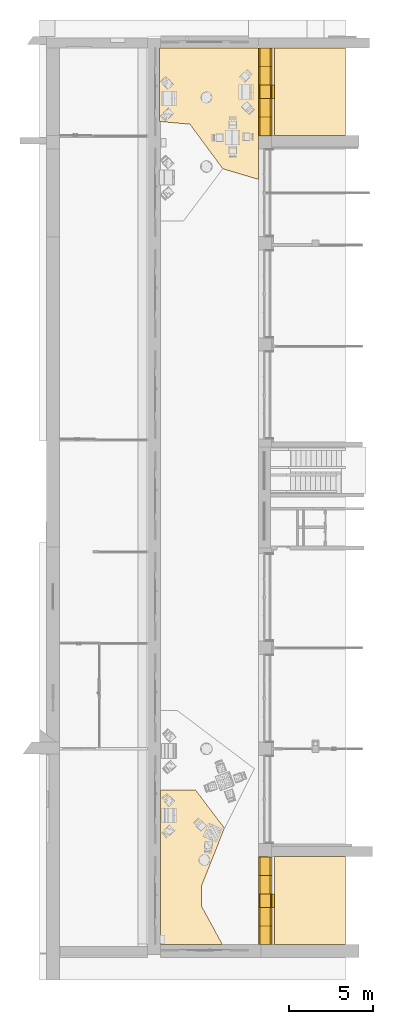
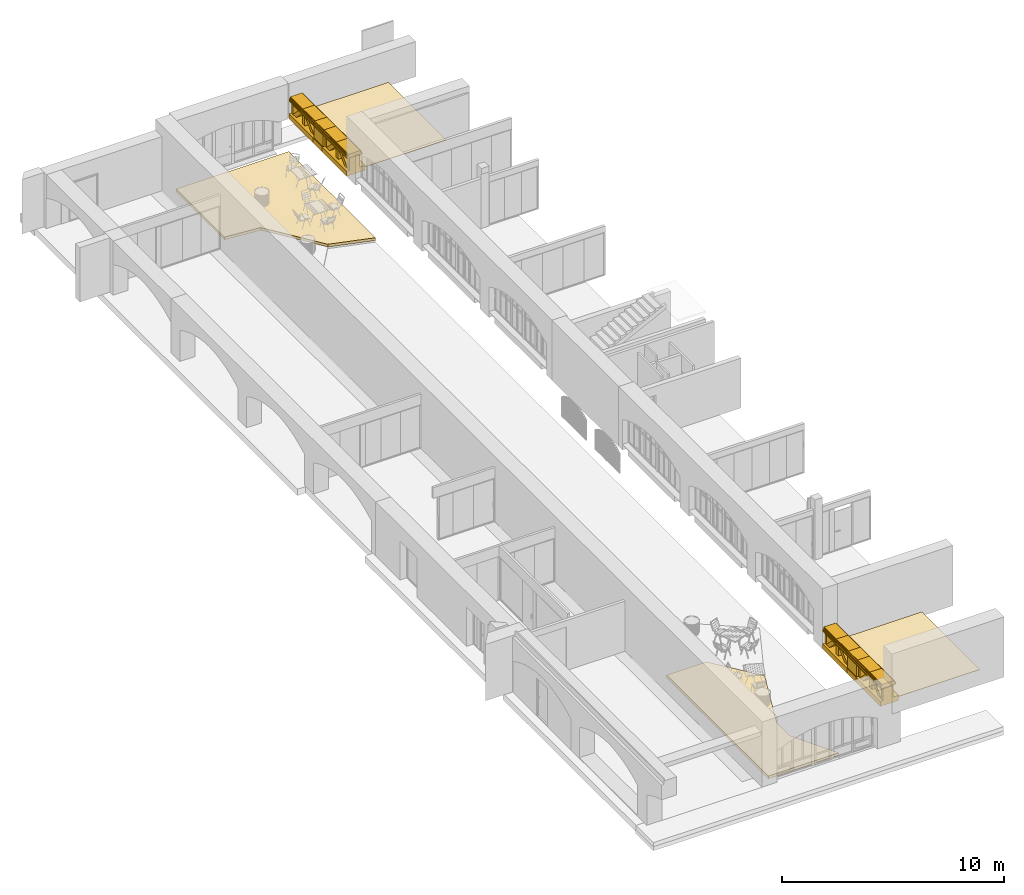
# One storey, part 86 of 88: 14 railings, 4 coverings.
"""IFC2X3 building model written with IfcOpenShell, lengths in millimetres."""

import ifcopenshell
import ifcopenshell.guid

model = None  # the IFC model being written
_history = None  # IfcOwnerHistory: only IFC2X3 demands one
_inside = {}  # id of a spatial element -> (the spatial element, [elements in it])
_under = {}  # id of a project, library or spatial element -> (it, [spatial elements below it])
_declared = {}  # id of a project -> (the project, [libraries it declares])
_typed = {}  # id of a type object -> (the type object, [elements of that type])
_made_of = {}  # id of a material, layer set ... -> (it, [elements and type objects made of it])


def new_model(schema):
    """Start an empty IFC model of exactly this schema.

    Asked for "IFC4X3", IfcOpenShell would pick the latest addendum, in which some entities
    have other attributes; the version numbers below select the first issue.
    IFC2X3 requires an IfcOwnerHistory on every rooted entity: one is made here for all.
    """
    global model, _history
    if schema == "IFC4X3":
        model = ifcopenshell.file(schema_version=(4, 3, 0, 0))
    else:
        model = ifcopenshell.file(schema=schema)
    _inside.clear()
    _under.clear()
    _declared.clear()
    _typed.clear()
    _made_of.clear()
    _history = None
    if model.schema == "IFC2X3":
        org = make("IfcOrganization", Name="unknown")
        user = make(
            "IfcPersonAndOrganization",
            ThePerson=make("IfcPerson", FamilyName="unknown"),
            TheOrganization=org,
        )
        app = make(
            "IfcApplication",
            ApplicationDeveloper=org,
            Version="unknown",
            ApplicationFullName="unknown",
            ApplicationIdentifier="unknown",
        )
        _history = make(
            "IfcOwnerHistory",
            OwningUser=user,
            OwningApplication=app,
            ChangeAction="ADDED",
            CreationDate=0,
        )
    return model


def make(cls, **values):
    """One entity of the class cls with the attributes given. An attribute that is None is left unset."""
    return model.create_entity(
        cls, **{name: value for name, value in values.items() if value is not None}
    )


def entity(cls, *values):
    """Any entity or typed value of the class cls, its attributes in the order of the schema. None: left unset."""
    e = model.create_entity(cls)
    for i, value in enumerate(values):
        if value is not None:
            e[i] = value
    return e


def rooted(cls, **values):
    """An entity with a GlobalId (a new one), such as an element, a storey or a relation."""
    return make(cls, GlobalId=ifcopenshell.guid.new(), OwnerHistory=_history, **values)


def si_unit(unit_type, name, prefix=None):
    """IfcSIUnit, for example si_unit("LENGTHUNIT", "METRE", prefix="MILLI")."""
    return make("IfcSIUnit", UnitType=unit_type, Prefix=prefix, Name=name)


def converted_unit(unit_type, name, factor, base, dimensions=None, offset=None):
    """IfcConversionBasedUnit, such as the inch: factor (a typed value) times the base unit."""
    return make(
        "IfcConversionBasedUnit"
        if offset is None
        else "IfcConversionBasedUnitWithOffset",
        ConversionOffset=offset,
        Dimensions=None
        if dimensions is None
        else entity("IfcDimensionalExponents", *dimensions),
        UnitType=unit_type,
        Name=name,
        ConversionFactor=make(
            "IfcMeasureWithUnit", ValueComponent=factor, UnitComponent=base
        ),
    )


def derived_unit(unit_type, elements):
    """IfcDerivedUnit: a product of units, each with its exponent."""
    return make(
        "IfcDerivedUnit",
        Elements=[
            make("IfcDerivedUnitElement", Unit=unit, Exponent=power)
            for unit, power in elements
        ],
        UnitType=unit_type,
    )


def assignment(units):
    """IfcUnitAssignment: the units of a project."""
    return None if units is None else make("IfcUnitAssignment", Units=units)


def point(xyz):
    """IfcCartesianPoint."""
    return None if xyz is None else make("IfcCartesianPoint", Coordinates=xyz)


def direction(xyz):
    """IfcDirection."""
    return None if xyz is None else make("IfcDirection", DirectionRatios=xyz)


def frame(location, z_axis=None, x_axis=None):
    """IfcAxis2Placement3D, a coordinate frame: its origin and axes. An axis left out is left unset."""
    return make(
        "IfcAxis2Placement3D",
        Location=point(location),
        Axis=direction(z_axis),
        RefDirection=direction(x_axis),
    )


def frame_2d(location, x_axis=None):
    """IfcAxis2Placement2D, a coordinate frame in the plane: its origin and x axis."""
    return make(
        "IfcAxis2Placement2D", Location=point(location), RefDirection=direction(x_axis)
    )


def origin():
    """The frame at (0, 0, 0) with its axes left unset."""
    return frame((0.0, 0.0, 0.0))


def place(relative_to, where):
    """IfcLocalPlacement: puts the frame where relative to a parent placement (None: the world)."""
    return make(
        "IfcLocalPlacement", PlacementRelTo=relative_to, RelativePlacement=where
    )


def context(
    kind, dimensions, precision=None, world=None, true_north=None, identifier=None
):
    """IfcGeometricRepresentationContext, for example the 3D "Model" context."""
    return make(
        "IfcGeometricRepresentationContext",
        ContextIdentifier=identifier,
        ContextType=kind,
        CoordinateSpaceDimension=dimensions,
        Precision=precision,
        WorldCoordinateSystem=world,
        TrueNorth=true_north,
    )


def subcontext(parent, identifier, kind, view, scale=None):
    """IfcGeometricRepresentationSubContext, for example "Body" below "Model"."""
    return make(
        "IfcGeometricRepresentationSubContext",
        ContextIdentifier=identifier,
        ContextType=kind,
        ParentContext=parent,
        TargetScale=scale,
        TargetView=view,
    )


def project(units=None, contexts=None):
    """IfcProject with its units and contexts."""
    return rooted(
        "IfcProject",
        Name="project",
        RepresentationContexts=contexts,
        UnitsInContext=assignment(units),
    )


def spatial(cls, under=None, at=None, **own):
    """A site, building, storey or space (cls), placed at a placement, below another one or the project."""
    s = rooted(cls, ObjectPlacement=at, **own)
    if under is not None:
        _under.setdefault(under.id(), (under, []))[1].append(s)
    return s


def polyline(points):
    """IfcPolyline through the points."""
    return make("IfcPolyline", Points=[point(p) for p in points])


def profile(cls, at=None, kind="AREA", **sizes):
    """A parametric profile (cls). Its sizes go by their IFC names, for example OverallWidth=200.0."""
    return make(cls, ProfileType=kind, Position=at, **sizes)


def rectangle(**sizes):
    """IfcRectangleProfileDef."""
    return profile("IfcRectangleProfileDef", **sizes)


def outline(outer, holes=None, kind="AREA"):
    """IfcArbitraryClosedProfileDef: a profile drawn as a closed curve; with holes, ...WithVoids."""
    if holes is None:
        return make("IfcArbitraryClosedProfileDef", ProfileType=kind, OuterCurve=outer)
    return make(
        "IfcArbitraryProfileDefWithVoids",
        ProfileType=kind,
        OuterCurve=outer,
        InnerCurves=holes,
    )


def extrude(swept, where, along, depth):
    """IfcExtrudedAreaSolid: the profile swept, set in the frame where, extruded along a direction by depth."""
    return make(
        "IfcExtrudedAreaSolid",
        SweptArea=swept,
        Position=where,
        ExtrudedDirection=direction(along),
        Depth=depth,
    )


def faces_of(points, faces, orient=None, outer=None):
    """IfcFace entities. A face is a list of loops; a loop is a list of indices into points, from 0.

    orient and outer hold one flag for each loop. By default every Orientation is true, the
    first loop of a face is its IfcFaceOuterBound and the others are IfcFaceBound.
    """
    made = []
    for i, loops in enumerate(faces):
        bounds = []
        for j, loop in enumerate(loops):
            is_outer = j == 0 if outer is None else outer[i][j]
            bounds.append(
                make(
                    "IfcFaceOuterBound" if is_outer else "IfcFaceBound",
                    Bound=make("IfcPolyLoop", Polygon=[points[k] for k in loop]),
                    Orientation=True if orient is None else orient[i][j],
                )
            )
        made.append(make("IfcFace", Bounds=bounds))
    return made


def faceted_brep(points, faces, orient=None, outer=None, voids=None):
    """IfcFacetedBrep: a solid bounded by flat faces; with voids (closed shells), ...WithVoids."""
    shared = [point(p) for p in points]
    hull = make("IfcClosedShell", CfsFaces=faces_of(shared, faces, orient, outer))
    if voids is None:
        return make("IfcFacetedBrep", Outer=hull)
    return make(
        "IfcFacetedBrepWithVoids",
        Outer=hull,
        Voids=[
            make(cls, CfsFaces=faces_of(shared, fs, o, b)) for cls, fs, o, b in voids
        ],
    )


def shape(context_of_items, identifier, shape_type, items):
    """IfcShapeRepresentation: the items that make up one representation, for example the "Body"."""
    return make(
        "IfcShapeRepresentation",
        ContextOfItems=context_of_items,
        RepresentationIdentifier=identifier,
        RepresentationType=shape_type,
        Items=items,
    )


def source(mapping_origin, context_of_items, identifier, shape_type, items):
    """IfcRepresentationMap: a shape defined once, which mapped items show again and again."""
    return make(
        "IfcRepresentationMap",
        MappingOrigin=mapping_origin,
        MappedRepresentation=shape(context_of_items, identifier, shape_type, items),
    )


def transform(
    local_origin,
    x_axis=None,
    y_axis=None,
    z_axis=None,
    scale=None,
    scale2=None,
    scale3=None,
    uniform=True,
):
    """IfcCartesianTransformationOperator3D, or its non-uniform kind. x_axis, y_axis, z_axis: its Axis1, 2, 3."""
    if uniform:
        return make(
            "IfcCartesianTransformationOperator3D",
            Axis1=direction(x_axis),
            Axis2=direction(y_axis),
            LocalOrigin=point(local_origin),
            Scale=scale,
            Axis3=direction(z_axis),
        )
    return make(
        "IfcCartesianTransformationOperator3DnonUniform",
        Axis1=direction(x_axis),
        Axis2=direction(y_axis),
        LocalOrigin=point(local_origin),
        Scale=scale,
        Axis3=direction(z_axis),
        Scale2=scale2,
        Scale3=scale3,
    )


def mapped(mapping_source, mapping_target):
    """IfcMappedItem: shows the shape of a source again, moved by a transform."""
    return make(
        "IfcMappedItem", MappingSource=mapping_source, MappingTarget=mapping_target
    )


def material(Name=None, Category=None):
    """IfcMaterial."""
    return make("IfcMaterial", Name=Name, Category=Category)


def layer(
    of_material, thickness, ventilated=None, Name=None, Category=None, Priority=None
):
    """IfcMaterialLayer: one layer of a wall or slab, of a material (None: an air gap)."""
    return make(
        "IfcMaterialLayer",
        Material=of_material,
        LayerThickness=thickness,
        IsVentilated=ventilated,
        Name=Name,
        Category=Category,
        Priority=Priority,
    )


def layer_set(layers, Name=None):
    """IfcMaterialLayerSet."""
    return make("IfcMaterialLayerSet", MaterialLayers=layers, LayerSetName=Name)


def layer_usage(for_layer_set, set_direction, sense, offset, extent=None):
    """IfcMaterialLayerSetUsage: how a layer set lies in its element."""
    return make(
        "IfcMaterialLayerSetUsage",
        ForLayerSet=for_layer_set,
        LayerSetDirection=set_direction,
        DirectionSense=sense,
        OffsetFromReferenceLine=offset,
        ReferenceExtent=extent,
    )


def made_of(thing, what):
    """Note that an element or type object is made of a material, layer set ...; save() writes the relation."""
    if what is not None:
        _made_of.setdefault(what.id(), (what, []))[1].append(thing)
    return thing


def type_object(cls, material=None, **own):
    """A type object (cls), such as IfcWallType, which elements share."""
    return made_of(rooted(cls, **own), material)


def type_shapes(of_type, sources):
    """Give a type object the sources (RepresentationMaps) that its elements show as mapped items."""
    of_type.RepresentationMaps = sources


def element(
    cls,
    number,
    at=None,
    inside=None,
    cuts=None,
    type_object=None,
    material=None,
    context=None,
    identifier="Body",
    shape_type=None,
    held_by="IfcProductDefinitionShape",
    body=None,
    shapes=None,
    **own,
):
    """One element of the class cls, such as IfcWall. Its Tag is "e" and its number.

    at: its placement. inside: the storey or other place that contains it. cuts: it is an
    opening in that element (IfcRelVoidsElement). A single representation is given by context,
    identifier, shape_type and body (its items); several are given by shapes. held_by: the class
    of the entity that holds the representations. save() writes the other relations.
    """
    e = rooted(cls, Tag="e%d" % number, ObjectPlacement=at, **own)
    if body is not None:
        shapes = [shape(context, identifier, shape_type, body)]
    if shapes is not None:
        e.Representation = make(held_by, Representations=shapes)
    if inside is not None:
        _inside.setdefault(inside.id(), (inside, []))[1].append(e)
    if cuts is not None:
        rooted(
            "IfcRelVoidsElement", RelatingBuildingElement=cuts, RelatedOpeningElement=e
        )
    if type_object is not None:
        _typed.setdefault(type_object.id(), (type_object, []))[1].append(e)
    return made_of(e, material)


def aggregate(whole, parts):
    """IfcRelAggregates: a whole, such as a stair, and the parts it consists of."""
    return rooted("IfcRelAggregates", RelatingObject=whole, RelatedObjects=parts)


def save(model, path):
    """Write the relations noted so far, then the file.

    IfcRelAggregates (storeys below a building ...), IfcRelContainedInSpatialStructure (elements
    in a storey), IfcRelDefinesByType, IfcRelAssociatesMaterial and IfcRelDeclares: one each for
    every whole, place, type object, material and project.
    """
    for whole, parts in _under.values():
        aggregate(whole, parts)
    for where, things in _inside.values():
        rooted(
            "IfcRelContainedInSpatialStructure",
            RelatedElements=things,
            RelatingStructure=where,
        )
    for kind, things in _typed.values():
        rooted("IfcRelDefinesByType", RelatedObjects=things, RelatingType=kind)
    for what, things in _made_of.values():
        rooted("IfcRelAssociatesMaterial", RelatedObjects=things, RelatingMaterial=what)
    for by, libraries in _declared.values():
        rooted("IfcRelDeclares", RelatingContext=by, RelatedDefinitions=libraries)
    model.write(path)


model = new_model("IFC2X3")

# Units and contexts
model_context = context("Model", 3, precision=0.01, world=origin(), true_north=direction((6.123031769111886e-17, 1.0)))
body_context = subcontext(model_context, "Body", "Model", "MODEL_VIEW")
ifc_project = project(units=[si_unit("LENGTHUNIT", "METRE", prefix="MILLI"), si_unit("AREAUNIT", "SQUARE_METRE"), si_unit("VOLUMEUNIT", "CUBIC_METRE"), converted_unit("PLANEANGLEUNIT", "DEGREE", entity("IfcPlaneAngleMeasure", 0.017453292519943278), si_unit("PLANEANGLEUNIT", "RADIAN"), dimensions=[0, 0, 0, 0, 0, 0, 0]), si_unit("MASSUNIT", "GRAM", prefix="KILO"), derived_unit("MASSDENSITYUNIT", [(si_unit("MASSUNIT", "GRAM", prefix="KILO"), 1), (si_unit("LENGTHUNIT", "METRE"), -3)]), derived_unit("IONCONCENTRATIONUNIT", [(si_unit("MASSUNIT", "GRAM", prefix="KILO"), 1), (si_unit("LENGTHUNIT", "METRE"), -3)]), derived_unit("MOMENTOFINERTIAUNIT", [(si_unit("LENGTHUNIT", "METRE"), 4)]), si_unit("TIMEUNIT", "SECOND"), si_unit("FREQUENCYUNIT", "HERTZ"), si_unit("THERMODYNAMICTEMPERATUREUNIT", "DEGREE_CELSIUS"), derived_unit("THERMALTRANSMITTANCEUNIT", [(si_unit("MASSUNIT", "GRAM", prefix="KILO"), 1), (si_unit("THERMODYNAMICTEMPERATUREUNIT", "KELVIN"), -1), (si_unit("TIMEUNIT", "SECOND"), -3)]), derived_unit("THERMALCONDUCTANCEUNIT", [(si_unit("MASSUNIT", "GRAM", prefix="KILO"), 1), (si_unit("THERMODYNAMICTEMPERATUREUNIT", "KELVIN"), -1), (si_unit("TIMEUNIT", "SECOND"), -3), (si_unit("LENGTHUNIT", "METRE"), 1)]), derived_unit("VOLUMETRICFLOWRATEUNIT", [(si_unit("LENGTHUNIT", "METRE", prefix="DECI"), 3), (si_unit("TIMEUNIT", "SECOND"), -1)]), derived_unit("MASSFLOWRATEUNIT", [(si_unit("MASSUNIT", "GRAM", prefix="KILO"), 1), (si_unit("TIMEUNIT", "SECOND"), -1)]), derived_unit("ROTATIONALFREQUENCYUNIT", [(si_unit("TIMEUNIT", "SECOND"), -1)]), si_unit("ELECTRICCURRENTUNIT", "AMPERE"), si_unit("ELECTRICVOLTAGEUNIT", "VOLT"), si_unit("POWERUNIT", "WATT"), si_unit("FORCEUNIT", "NEWTON", prefix="KILO"), si_unit("ILLUMINANCEUNIT", "LUX"), si_unit("LUMINOUSFLUXUNIT", "LUMEN"), si_unit("LUMINOUSINTENSITYUNIT", "CANDELA"), si_unit("ENERGYUNIT", "JOULE"), derived_unit("USERDEFINED", [(si_unit("MASSUNIT", "GRAM", prefix="KILO"), -1), (si_unit("LENGTHUNIT", "METRE"), -2), (si_unit("TIMEUNIT", "SECOND"), 3), (si_unit("LUMINOUSFLUXUNIT", "LUMEN"), 1)]), derived_unit("USERDEFINED", [(si_unit("MASSUNIT", "GRAM", prefix="KILO"), 1), (si_unit("TIMEUNIT", "SECOND"), -3), (si_unit("LENGTHUNIT", "METRE"), 3), (si_unit("ELECTRICCURRENTUNIT", "AMPERE"), -2)]), derived_unit("SOUNDPOWERUNIT", [(si_unit("MASSUNIT", "GRAM", prefix="KILO"), 1), (si_unit("TIMEUNIT", "SECOND"), -3), (si_unit("LENGTHUNIT", "METRE"), 2)]), derived_unit("SOUNDPRESSUREUNIT", [(si_unit("MASSUNIT", "GRAM", prefix="KILO"), 1), (si_unit("LENGTHUNIT", "METRE"), -1), (si_unit("TIMEUNIT", "SECOND"), -2)]), derived_unit("LINEARVELOCITYUNIT", [(si_unit("LENGTHUNIT", "METRE"), 1), (si_unit("TIMEUNIT", "SECOND"), -1)]), si_unit("PRESSUREUNIT", "PASCAL"), derived_unit("USERDEFINED", [(si_unit("MASSUNIT", "GRAM", prefix="KILO"), 1), (si_unit("LENGTHUNIT", "METRE"), -2), (si_unit("TIMEUNIT", "SECOND"), -2)]), derived_unit("LINEARFORCEUNIT", [(si_unit("MASSUNIT", "GRAM", prefix="KILO"), 1), (si_unit("TIMEUNIT", "SECOND"), -2)]), derived_unit("PLANARFORCEUNIT", [(si_unit("MASSUNIT", "GRAM", prefix="KILO"), 1), (si_unit("LENGTHUNIT", "METRE"), -1), (si_unit("TIMEUNIT", "SECOND"), -2)]), derived_unit("SPECIFICHEATCAPACITYUNIT", [(si_unit("THERMODYNAMICTEMPERATUREUNIT", "KELVIN"), -1), (si_unit("LENGTHUNIT", "METRE"), 2), (si_unit("TIMEUNIT", "SECOND"), -2)]), derived_unit("HEATFLUXDENSITYUNIT", [(si_unit("MASSUNIT", "GRAM", prefix="KILO"), 1), (si_unit("TIMEUNIT", "SECOND"), -3)]), derived_unit("HEATINGVALUEUNIT", [(si_unit("LENGTHUNIT", "METRE"), 2), (si_unit("TIMEUNIT", "SECOND"), -2)]), derived_unit("VAPORPERMEABILITYUNIT", [(si_unit("LENGTHUNIT", "METRE"), -1), (si_unit("TIMEUNIT", "SECOND"), 1)]), derived_unit("DYNAMICVISCOSITYUNIT", [(si_unit("MASSUNIT", "GRAM", prefix="KILO"), 1), (si_unit("TIMEUNIT", "SECOND"), -1), (si_unit("LENGTHUNIT", "METRE"), -1)]), derived_unit("THERMALEXPANSIONCOEFFICIENTUNIT", [(si_unit("THERMODYNAMICTEMPERATUREUNIT", "KELVIN"), -1)]), derived_unit("MODULUSOFELASTICITYUNIT", [(si_unit("MASSUNIT", "GRAM", prefix="KILO"), 1), (si_unit("LENGTHUNIT", "METRE"), -1), (si_unit("TIMEUNIT", "SECOND"), -2)]), derived_unit("ISOTHERMALMOISTURECAPACITYUNIT", [(si_unit("MASSUNIT", "GRAM", prefix="KILO"), -1), (si_unit("LENGTHUNIT", "METRE"), 3)]), derived_unit("MOISTUREDIFFUSIVITYUNIT", [(si_unit("TIMEUNIT", "SECOND"), -1), (si_unit("LENGTHUNIT", "METRE"), 2)]), derived_unit("MASSPERLENGTHUNIT", [(si_unit("MASSUNIT", "GRAM", prefix="KILO"), 1), (si_unit("LENGTHUNIT", "METRE"), -1)]), derived_unit("THERMALRESISTANCEUNIT", [(si_unit("MASSUNIT", "GRAM", prefix="KILO"), -1), (si_unit("TIMEUNIT", "SECOND"), 3), (si_unit("THERMODYNAMICTEMPERATUREUNIT", "KELVIN"), 1)]), derived_unit("ACCELERATIONUNIT", [(si_unit("LENGTHUNIT", "METRE"), 1), (si_unit("TIMEUNIT", "SECOND"), -2)]), derived_unit("ANGULARVELOCITYUNIT", [(si_unit("TIMEUNIT", "SECOND"), -1), (si_unit("PLANEANGLEUNIT", "RADIAN"), 1)]), derived_unit("LINEARSTIFFNESSUNIT", [(si_unit("MASSUNIT", "GRAM", prefix="KILO"), 1), (si_unit("TIMEUNIT", "SECOND"), -2)]), derived_unit("WARPINGCONSTANTUNIT", [(si_unit("LENGTHUNIT", "METRE"), 6)]), derived_unit("LINEARMOMENTUNIT", [(si_unit("MASSUNIT", "GRAM", prefix="KILO"), 1), (si_unit("LENGTHUNIT", "METRE"), 1), (si_unit("TIMEUNIT", "SECOND"), -2)]), derived_unit("TORQUEUNIT", [(si_unit("MASSUNIT", "GRAM", prefix="KILO"), 1), (si_unit("LENGTHUNIT", "METRE"), 2), (si_unit("TIMEUNIT", "SECOND"), -2)])], contexts=[model_context])

# Site, building, storey
site_placement = place(None, origin())
site = spatial("IfcSite", under=ifc_project, at=site_placement, Name="Default", CompositionType="ELEMENT")
building_placement = place(site_placement, origin())
building = spatial("IfcBuilding", under=site, at=building_placement, Name="Eesti Rahvusraamatukogu hoone renoveerimise projekteerimistööd", CompositionType="ELEMENT")
storey_placement = place(building_placement, origin())
storey = spatial("IfcBuildingStorey", under=building, at=storey_placement, Name="1. korrus", CompositionType="ELEMENT", Elevation=0.0)

# Coverings
ifc_material_1 = material(Name="EST. Betoonplaat tume")
ifc_layer_1 = layer(ifc_material_1, 20.0)
ifc_layer_set_1 = layer_set([ifc_layer_1], Name="Basic Roof:TV-01 plaat 1 (tume)")
ifc_layer_usage_1 = layer_usage(ifc_layer_set_1, "AXIS3", "NEGATIVE", 0.0)
covering_type_1 = type_object("IfcCoveringType", Name="Basic Roof:TV-01 plaat 1 (tume)", PredefinedType="NOTDEFINED")
covering_1_placement = place(storey_placement, frame((-35827.49999999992, 780.0, 1850.0)))
element("IfcCovering", 1, at=covering_1_placement, inside=storey, type_object=covering_type_1, material=ifc_layer_usage_1, Name="Basic Roof:TV-01 plaat 1 (tume)", ObjectType="Basic Roof:TV-01 plaat 1 (tume)", PredefinedType="NOTDEFINED", context=body_context, shape_type="SweptSolid", body=[
    extrude(rectangle(XDim=5219.999999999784, YDim=4217.681568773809, at=frame_2d((0.0, 2.2737367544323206e-12), x_axis=(1.0, 0.0))), frame((2108.8407843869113, 2610.0, 0.0), z_axis=(0.0, 0.0, 1.0), x_axis=(0.0, -1.0, 0.0)), (0.0, 0.0, 1.0), 20.000000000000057),
])
ifc_layer_usage_2 = layer_usage(ifc_layer_set_1, "AXIS3", "NEGATIVE", 0.0)
covering_2_placement = place(storey_placement, frame((-35827.50000000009, 48780.0, 1820.0)))
element("IfcCovering", 2, at=covering_2_placement, inside=storey, type_object=covering_type_1, material=ifc_layer_usage_2, Name="Basic Roof:TV-01 plaat 1 (tume)", ObjectType="Basic Roof:TV-01 plaat 1 (tume)", PredefinedType="NOTDEFINED", context=body_context, shape_type="SweptSolid", body=[
    extrude(rectangle(XDim=5210.376279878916, YDim=4217.681568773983, at=frame_2d((0.0, -6.59383658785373e-12), x_axis=(1.0, 0.0))), frame((2108.8407843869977, 2605.1881399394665, 0.0), z_axis=(0.0, 0.0, 1.0), x_axis=(0.0, 1.0, 0.0)), (0.0, 0.0, 1.0), 20.000000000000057),
])
ifc_layer_2 = layer(ifc_material_1, 20.0)
ifc_material_2 = material(Name="LUMION_grey concrete")
ifc_layer_3 = layer(ifc_material_2, 130.0)
ifc_layer_set_2 = layer_set([ifc_layer_2, ifc_layer_3], Name="Basic Roof:TV-01 plaat 1 (tume) 2")
ifc_layer_usage_3 = layer_usage(ifc_layer_set_2, "AXIS3", "NEGATIVE", 0.0)
covering_type_2 = type_object("IfcCoveringType", Name="Basic Roof:TV-01 plaat 1 (tume) 2", PredefinedType="NOTDEFINED")
covering_3_placement = place(storey_placement, frame((-42640.0, 46186.97704288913, -300.0)))
element("IfcCovering", 3, at=covering_3_placement, inside=storey, type_object=covering_type_2, material=ifc_layer_usage_3, Name="Basic Roof:TV-01 plaat 1 (tume) 2", ObjectType="Basic Roof:TV-01 plaat 1 (tume) 2", PredefinedType="NOTDEFINED", context=body_context, shape_type="SweptSolid", body=[
    extrude(outline(polyline([(-3979.05216188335, -2876.3463399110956), (386.5643390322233, -2876.3463399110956), (552.1752025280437, -1082.7302427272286), (3195.01770709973, 868.1156023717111), (3824.347075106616, 2983.653660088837), (-3979.052161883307, 2983.65366008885), (-3979.05216188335, -2876.3463399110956)])), frame((2876.3463399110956, 3824.347075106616, 0.0), z_axis=(0.0, 0.0, 1.0), x_axis=(0.0, -1.0, 0.0)), (0.0, 0.0, 1.0), 150.0),
])
ifc_layer_usage_4 = layer_usage(ifc_layer_set_2, "AXIS3", "NEGATIVE", 0.0)
covering_4_placement = place(storey_placement, frame((-42590.0, 796.0, -300.0)))
element("IfcCovering", 4, at=covering_4_placement, inside=storey, type_object=covering_type_2, material=ifc_layer_usage_4, Name="Basic Roof:TV-01 plaat 1 (tume) 2", ObjectType="Basic Roof:TV-01 plaat 1 (tume) 2", PredefinedType="NOTDEFINED", context=body_context, shape_type="SweptSolid", body=[
    extrude(outline(polyline([(924.2758885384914, -2881.976126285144), (3756.6262401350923, -2881.976126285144), (5013.685266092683, -1226.091323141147), (-2276.192479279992, 4307.993294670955), (-4489.831031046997, 1392.0359992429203), (-1927.5993329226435, 996.7328809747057), (-1000.964551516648, 293.2814008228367), (924.2758885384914, -2881.976126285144)])), frame((2054.966991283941, 4417.801386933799, 0.0), z_axis=(0.0, 0.0, 1.0), x_axis=(-0.6046522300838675, 0.7964895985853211, 0.0)), (0.0, 0.0, 1.0), 149.99999999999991),
])

# Railings
ifc_material_3 = material(Name="LUMION_facade concrete")
railing_type_1 = type_object("IfcRailingType", Name="Piirde element väljas 1, kõrge:PR-03 - Piirde element väljas", PredefinedType="NOTDEFINED", material=ifc_material_3)
shared_shape_1 = source(origin(), body_context, "Body", "Brep", [
    faceted_brep([(1100.0, -556.2500000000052, 0.0), (1100.0, 396.25000000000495, 0.0), (1100.0, 396.25000000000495, 275.0), (1100.0, 261.25000000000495, 275.0), (1100.0, 261.25000000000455, 970.0), (1100.0, 396.250000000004, 970.0), (1100.0, 396.250000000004, 1020.8823529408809), (1100.0, 376.2500000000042, 1065.0), (1100.0, 346.25000000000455, 1065.0), (1100.0, 346.25000000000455, 1122.4999999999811), (1100.0, 329.25000000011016, 1160.0), (1100.0, 306.25000000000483, 1180.0), (1100.0, -306.25000000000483, 1180.0), (1100.0, -329.2500000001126, 1160.0), (1100.0, -346.250000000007, 1122.4999999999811), (1100.0, -346.250000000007, 1065.0), (1100.0, -376.25000000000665, 1065.0), (1100.0, -396.2500000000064, 1020.8823529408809), (1100.0, -396.2500000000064, 970.0), (1100.0, -261.2500000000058, 970.0), (1100.0, -261.2500000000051, 275.0), (1100.0, -556.2500000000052, 275.0), (-1100.0, -556.2500000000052, 0.0), (-1100.0, -556.2500000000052, 275.0), (-1100.0, -261.2500000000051, 275.0), (-1100.0, -261.2500000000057, 970.0), (-1100.0, -396.2500000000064, 970.0), (-1100.0, -396.2500000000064, 1020.8823529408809), (-1100.0, -376.25000000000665, 1065.0), (-1100.0, -346.250000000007, 1065.0), (-1100.0, -346.250000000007, 1122.4999999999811), (-1100.0, -329.2500000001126, 1160.0), (-1100.0, -306.25000000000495, 1180.0), (-1100.0, 306.25000000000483, 1180.0), (-1100.0, 329.25000000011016, 1160.0), (-1100.0, 346.25000000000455, 1122.4999999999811), (-1100.0, 346.25000000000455, 1065.0), (-1100.0, 376.2500000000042, 1065.0), (-1100.0, 396.250000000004, 1020.8823529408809), (-1100.0, 396.250000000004, 970.0), (-1100.0, 261.25000000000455, 970.0), (-1100.0, 261.25000000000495, 275.0), (-1100.0, 396.25000000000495, 275.0), (-1100.0, 396.25000000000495, 0.0), (970.0, -261.25000000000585, 970.0), (970.0, -261.25000000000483, 275.0), (970.0, 261.25000000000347, 275.0), (970.0, 261.2500000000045, 970.0), (-970.0, -261.25000000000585, 970.0), (-970.0, 261.2500000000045, 970.0), (-275.0, 261.2500000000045, 970.0), (-275.0, -261.25000000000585, 970.0), (275.0, -261.25000000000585, 970.0), (275.0, 261.2500000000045, 970.0), (680.0, -261.2500000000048, 275.0), (680.0, 261.25000000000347, 275.0), (-970.0, 261.25000000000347, 275.0), (-680.0, 261.2500000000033, 275.0), (-680.0, -261.25000000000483, 275.0), (-970.0, -261.25000000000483, 275.0), (-100.0, -261.2500000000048, 275.0), (-100.0, 261.25000000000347, 275.0), (100.0, 261.2500000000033, 275.0), (100.0, -261.25000000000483, 275.0), (100.0, -261.25000000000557, 855.0), (100.0, 261.2500000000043, 855.0), (-100.0, -261.25000000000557, 855.0), (-100.0, 261.2500000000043, 855.0)], [[[0, 1, 2, 3, 4, 5, 6, 7, 8, 9, 10, 11, 12, 13, 14, 15, 16, 17, 18, 19, 20, 21]], [[22, 23, 24, 25, 26, 27, 28, 29, 30, 31, 32, 33, 34, 35, 36, 37, 38, 39, 40, 41, 42, 43]], [[1, 0, 22, 43]], [[0, 21, 23, 22]], [[42, 2, 1, 43]], [[20, 19, 44, 45]], [[4, 3, 46, 47]], [[5, 4, 47, 44, 19, 18, 26, 25, 48, 49, 40, 39], [50, 51, 52, 53]], [[6, 5, 39, 38]], [[7, 6, 38, 37]], [[8, 7, 37, 36]], [[9, 8, 36, 35]], [[10, 9, 35, 34]], [[11, 10, 34, 33]], [[12, 11, 33, 32]], [[13, 12, 32, 31]], [[14, 13, 31, 30]], [[15, 14, 30, 29]], [[16, 15, 29, 28]], [[17, 16, 28, 27]], [[26, 18, 17, 27]], [[21, 20, 45, 54, 55, 46, 3, 2, 42, 41, 56, 57, 58, 59, 24, 23], [60, 61, 62, 63]], [[55, 54, 64, 65]], [[63, 62, 65, 64]], [[61, 60, 66, 67]], [[58, 57, 67, 66]], [[56, 59, 51, 50]], [[59, 56, 49, 48]], [[46, 45, 44, 47]], [[45, 46, 53, 52]], [[62, 61, 67, 57, 56, 50, 53, 46, 55, 65]], [[41, 40, 49, 56]], [[60, 63, 64, 54, 45, 52, 51, 59, 58, 66]], [[25, 24, 59, 48]]]),
])
type_shapes(railing_type_1, [shared_shape_1])
for number, where, z_axis, x_axis, name in (
    (5, (-36383.750000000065, 52890.37627987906, 1650.0), (0.0, 0.0, 1.0), (0.0, 1.0, 0.0), "Piirde element väljas 1, kõrge:PR-03 - Piirde element väljas"),
    (6, (-36383.75000000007, 49880.0, 1650.0), (0.0, 0.0, 1.0), (0.0, 1.0, 0.0), "Piirde element väljas 1, kõrge:PR-03 - Piirde element väljas"),
    (7, (-36383.74999999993, 4900.0, 1650.0), (0.0, 0.0, 1.0), (0.0, 1.0, 0.0), "Piirde element väljas 1, kõrge:PR-03 - Piirde element väljas"),
    (8, (-36383.74999999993, 1880.0, 1650.0), (0.0, 0.0, 1.0), (0.0, 1.0, 0.0), "Piirde element väljas 1, kõrge:PR-03 - Piirde element väljas"),
):
    element("IfcRailing", number, at=place(storey_placement, frame(where, z_axis=z_axis, x_axis=x_axis)), inside=storey, type_object=railing_type_1, material=ifc_material_3, Name=name, ObjectType="Piirde element väljas 1, kõrge:PR-03 - Piirde element väljas", PredefinedType="NOTDEFINED", context=body_context, shape_type="MappedRepresentation", body=[
        mapped(shared_shape_1, transform((0.0, 0.0, 0.0), scale=1.0)),
    ])
railing_type_2 = type_object("IfcRailingType", Name="Piirde element väljas 1_post, kõrge:PR-03 - Piirde element väljas_vahepost, kõrge", PredefinedType="NOTDEFINED", material=ifc_material_3)
shared_shape_2 = source(origin(), body_context, "Body", "SweptSolid", [
    extrude(outline(polyline([(552.5802139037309, -546.2500000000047), (827.5802139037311, -546.2500000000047), (827.5802139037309, 411.25000000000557), (552.5802139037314, 411.2500000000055), (552.5802139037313, 366.250000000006), (-142.41978609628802, 366.2500000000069), (-142.41978609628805, 411.2500000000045), (-193.30213903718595, 411.2500000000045), (-237.4197860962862, 391.2500000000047), (-237.4197860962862, 361.25000000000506), (-294.91978609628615, 361.25000000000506), (-332.4197860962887, 344.25000000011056), (-352.4197860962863, 321.25000000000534), (-352.41978609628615, -291.2500000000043), (-332.41978609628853, -314.25000000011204), (-294.919786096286, -331.2500000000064), (-237.41978609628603, -331.2500000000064), (-237.419786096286, -361.25000000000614), (-193.30213903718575, -381.2500000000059), (-142.41978609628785, -381.2500000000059), (-142.41978609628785, -336.2500000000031), (552.5802139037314, -336.25000000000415), (552.5802139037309, -546.2500000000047)])), frame((-405.1881399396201, -15.0, 827.580213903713), z_axis=(1.0, 0.0, 0.0), x_axis=(0.0, 0.0, -1.0)), (0.0, 0.0, 1.0), 810.3762798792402),
])
type_shapes(railing_type_2, [shared_shape_2])
for number, where, z_axis, x_axis, name in (
    (9, (-36383.750000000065, 51385.18813993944, 1650.0), (0.0, 0.0, 1.0), (0.0, 1.0, 0.0), "Piirde element väljas 1_post, kõrge:PR-03 - Piirde element väljas_vahepost, kõrge"),
    (10, (-36383.74999999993, 3390.0, 1650.0), (0.0, 0.0, 1.0), (0.0, 1.0, 0.0), "Piirde element väljas 1_post, kõrge:PR-03 - Piirde element väljas_vahepost, kõrge"),
):
    element("IfcRailing", number, at=place(storey_placement, frame(where, z_axis=z_axis, x_axis=x_axis)), inside=storey, type_object=railing_type_2, material=ifc_material_3, Name=name, ObjectType="Piirde element väljas 1_post, kõrge:PR-03 - Piirde element väljas_vahepost, kõrge", PredefinedType="NOTDEFINED", context=body_context, shape_type="MappedRepresentation", body=[
        mapped(shared_shape_2, transform((0.0, 0.0, 0.0), scale=1.0)),
    ])
railing_type_3 = type_object("IfcRailingType", Name="PR3 mütsi moodul:PR3.1 - laius 790mm, pikkus1100mm", PredefinedType="NOTDEFINED", material=ifc_material_3)
shared_shape_3 = source(origin(), body_context, "Body", "SweptSolid", [
    extrude(outline(polyline([(-395.0, -105.0), (395.0, -105.0), (301.5019760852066, 105.0), (-301.5019760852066, 105.0), (-395.0, -105.0)])), frame((0.0, 0.0, 105.0), z_axis=(1.0, 0.0, 0.0), x_axis=(0.0, 1.0, 0.0)), (0.0, 0.0, 1.0), 1101.6924385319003),
])
type_shapes(railing_type_3, [shared_shape_3])
for number, where, z_axis, x_axis, name in (
    (11, (-36385.0, 4890.0, 2620.0), (0.0, 0.0, 1.0), (0.0, 1.0, 0.0), "PR3 mütsi moodul:PR3.1 - laius 790mm, pikkus1100mm"),
    (12, (-36385.0, 52885.18813993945, 2620.0), (0.0, 0.0, 1.0), (0.0, 1.0, 0.0), "PR3 mütsi moodul:PR3.1 - laius 790mm, pikkus1100mm"),
):
    element("IfcRailing", number, at=place(storey_placement, frame(where, z_axis=z_axis, x_axis=x_axis)), inside=storey, type_object=railing_type_3, material=ifc_material_3, Name=name, ObjectType="PR3 mütsi moodul:PR3.1 - laius 790mm, pikkus1100mm", PredefinedType="NOTDEFINED", context=body_context, shape_type="MappedRepresentation", body=[
        mapped(shared_shape_3, transform((0.0, 0.0, 0.0), scale=1.0)),
    ])
railing_type_4 = type_object("IfcRailingType", Name="PR3 mütsi moodul:PR3.1 - laius 790mm, pikkus1100mm", PredefinedType="NOTDEFINED", material=ifc_material_3)
shared_shape_4 = source(origin(), body_context, "Body", "SweptSolid", [
    extrude(outline(polyline([(-395.0, -105.0), (395.0, -105.0), (301.5019760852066, 105.0), (-301.5019760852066, 105.0), (-395.0, -105.0)])), frame((0.0, 0.0, 105.0), z_axis=(1.0, 0.0, 0.0), x_axis=(0.0, 1.0, 0.0)), (0.0, 0.0, 1.0), 1118.3075614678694),
])
type_shapes(railing_type_4, [shared_shape_4])
for number, where, z_axis, x_axis, name in (
    (13, (-36385.0, 771.6924385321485, 2620.0), (0.0, 0.0, 1.0), (0.0, 1.0, 0.0), "PR3 mütsi moodul:PR3.1 - laius 790mm, pikkus1100mm"),
    (14, (-36385.0, 48766.880578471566, 2620.0), (0.0, 0.0, 1.0), (0.0, 1.0, 0.0), "PR3 mütsi moodul:PR3.1 - laius 790mm, pikkus1100mm"),
):
    element("IfcRailing", number, at=place(storey_placement, frame(where, z_axis=z_axis, x_axis=x_axis)), inside=storey, type_object=railing_type_4, material=ifc_material_3, Name=name, ObjectType="PR3 mütsi moodul:PR3.1 - laius 790mm, pikkus1100mm", PredefinedType="NOTDEFINED", context=body_context, shape_type="MappedRepresentation", body=[
        mapped(shared_shape_4, transform((0.0, 0.0, 0.0), scale=1.0)),
    ])
railing_type_5 = type_object("IfcRailingType", Name="PR3 mütsi moodul:PR3.2 - laius 790mm, pikkus1500mm", PredefinedType="NOTDEFINED", material=ifc_material_3)
shared_shape_5 = source(origin(), body_context, "Body", "SweptSolid", [
    extrude(outline(polyline([(-395.0, -105.0), (395.0, -105.0), (301.5019760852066, 105.0), (-301.5019760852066, 105.0), (-395.0, -105.0)])), frame((0.0, 0.0, 105.0), z_axis=(1.0, 0.0, 0.0), x_axis=(0.0, 1.0, 0.0)), (0.0, 0.0, 1.0), 1500.0),
])
type_shapes(railing_type_5, [shared_shape_5])
for number, where, z_axis, x_axis, name in (
    (15, (-36385.0, 1890.0, 2620.0), (0.0, 0.0, 1.0), (0.0, 1.0, 0.0), "PR3 mütsi moodul:PR3.2 - laius 790mm, pikkus1500mm"),
    (16, (-36385.0, 49885.18813993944, 2620.0), (0.0, 0.0, 1.0), (0.0, 1.0, 0.0), "PR3 mütsi moodul:PR3.2 - laius 790mm, pikkus1500mm"),
):
    element("IfcRailing", number, at=place(storey_placement, frame(where, z_axis=z_axis, x_axis=x_axis)), inside=storey, type_object=railing_type_5, material=ifc_material_3, Name=name, ObjectType="PR3 mütsi moodul:PR3.2 - laius 790mm, pikkus1500mm", PredefinedType="NOTDEFINED", context=body_context, shape_type="MappedRepresentation", body=[
        mapped(shared_shape_5, transform((0.0, 0.0, 0.0), scale=1.0)),
    ])
railing_type_6 = type_object("IfcRailingType", Name="PR3 mütsi moodul:PR3.2 - laius 790mm, pikkus1500mm", PredefinedType="NOTDEFINED", material=ifc_material_3)
shared_shape_6 = source(origin(), body_context, "Body", "SweptSolid", [
    extrude(outline(polyline([(-256.5832470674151, -318.1431082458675), (-26.709628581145, -318.1431082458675), (218.55417468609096, 232.72841319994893), (64.73870096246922, 403.5578032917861), (-256.5832470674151, -318.1431082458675)])), frame((0.0, 0.0, 105.0), z_axis=(1.0, 0.0, 0.0), x_axis=(0.0, -0.40673664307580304, 0.9135454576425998)), (0.0, 0.0, 1.0), 1499.9999999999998),
])
type_shapes(railing_type_6, [shared_shape_6])
for number, where, z_axis, x_axis, name in (
    (17, (-36385.0, 4890.0, 2620.0), (0.0, 0.0, 1.0), (0.0, -1.0, 0.0), "PR3 mütsi moodul:PR3.2 - laius 790mm, pikkus1500mm"),
    (18, (-36385.0, 52885.18813993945, 2620.0), (0.0, 0.0, 1.0), (0.0, -1.0, 0.0), "PR3 mütsi moodul:PR3.2 - laius 790mm, pikkus1500mm"),
):
    element("IfcRailing", number, at=place(storey_placement, frame(where, z_axis=z_axis, x_axis=x_axis)), inside=storey, type_object=railing_type_6, material=ifc_material_3, Name=name, ObjectType="PR3 mütsi moodul:PR3.2 - laius 790mm, pikkus1500mm", PredefinedType="NOTDEFINED", context=body_context, shape_type="MappedRepresentation", body=[
        mapped(shared_shape_6, transform((0.0, 0.0, 0.0), scale=1.0)),
    ])

save(model, "model.ifc")
